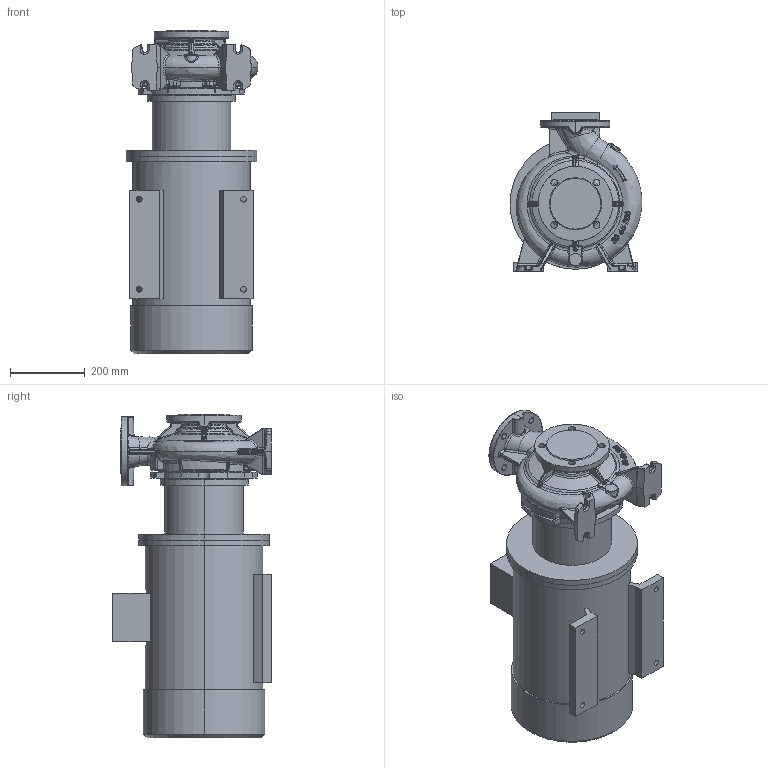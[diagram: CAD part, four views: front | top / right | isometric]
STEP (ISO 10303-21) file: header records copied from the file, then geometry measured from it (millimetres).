
FILE_DESCRIPTION (( 'STEP AP203' ), '1' );
FILE_NAME ('KRM 80-65-200-2-22.STEP', '2026-05-07T07:20:41', ( '' ), ( '' ), 'SwSTEP 2.0', 'SolidWorks 2016', '' );
FILE_SCHEMA (( 'CONFIG_CONTROL_DESIGN' ));
Length unit declared in the file: millimetre
Products named in the file (1): KRM 80-65-200-2-22
Bounding box: 353.01 x 425 x 867.3 mm (x, y, z)
Volume: 62779770.3 mm3; surface area: 1903688.9 mm2
Topology: 14 solids, 14 shells, 1176 faces, 2804 edges, 1664 vertices
Faces by surface type: bspline 552, cylinder 228, plane 216, torus 89, cone 76, sphere 15
Entity records: 72076 total; most frequent: CARTESIAN_POINT 49072, ORIENTED_EDGE 5572, DIRECTION 3717, EDGE_CURVE 2786, VERTEX_POINT 1664, AXIS2_PLACEMENT_3D 1535, EDGE_LOOP 1238, ADVANCED_FACE 1176
